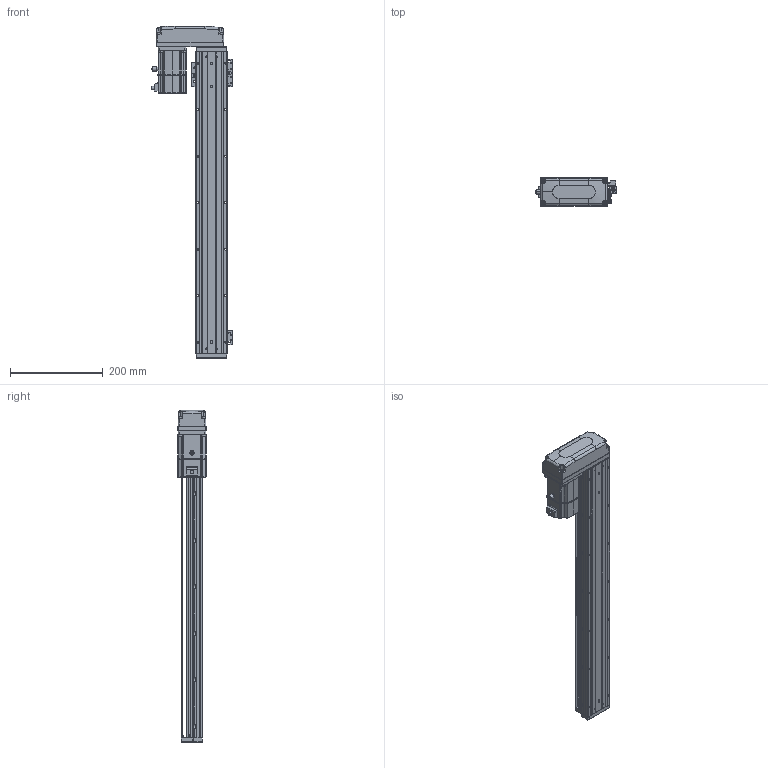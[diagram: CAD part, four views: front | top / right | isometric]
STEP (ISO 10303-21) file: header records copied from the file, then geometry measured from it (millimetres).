
FILE_DESCRIPTION (( 'STEP AP203' ), '1' );
FILE_NAME ('KTHA60-550-BR-M20-C4L.step', '2022-12-16T01:39:45', ( '微软用户' ), ( '微软中国' ), 'SwSTEP 2.0', 'SolidWorks 2020', '' );
FILE_SCHEMA (( 'CONFIG_CONTROL_DESIGN' ));
Length unit declared in the file: millimetre
Products named in the file (17): KTHA60-004; GBT 70.1-M4×16; _X2_4E0983F1_X0_200W_1; KTHA60-005; GBT77-2000M3-3; KTHA60-550-BR-M20-C4L; GB¨uT 70.2-M3¡Á5_M3¡Á6; GBT 70.1-M3℅6; GBT 70.3-M3℅6; CTHA60-016; EE_SX911P_R; KTHA60-002; CTHA60-017; BTH80-026; KTHA60-001_650; CTHA60-021; CTHA60-006-2_CTHA60-006-2
Assembly tree (51 placements, depth 2):
  KTHA60-550-BR-M20-C4L
    KTHA60-001_650
    KTHA60-004
    KTHA60-005
    GB¨uT 70.2-M3¡Á5_M3¡Á6  x6
    GBT 70.3-M3℅6  x4
    EE_SX911P_R  x3
    CTHA60-017  x3
    CTHA60-021  x2
    GBT 70.1-M4×16  x8
    GBT77-2000M3-3  x6
    GBT 70.1-M3℅6  x10
    CTHA60-016  x2
    KTHA60-002
    BTH80-026
    CTHA60-006-2_CTHA60-006-2
    _X2_4E0983F1_X0_200W_1
Bounding box: 173.02 x 62.42 x 714 mm (x, y, z)
Volume: 1552766.2 mm3; surface area: 410690.5 mm2
Topology: 54 solids, 54 shells, 2448 faces, 5829 edges, 3586 vertices
Faces by surface type: plane 1297, cylinder 650, cone 284, bspline 109, torus 92, sphere 16
Entity records: 45532 total; most frequent: CARTESIAN_POINT 10594, ORIENTED_EDGE 6706, DIRECTION 6698, EDGE_CURVE 3353, AXIS2_PLACEMENT_3D 2309, VERTEX_POINT 2095, LINE 2080, VECTOR 2080
